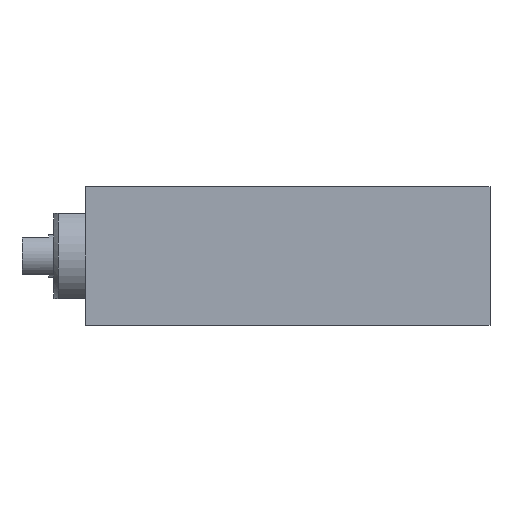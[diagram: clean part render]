
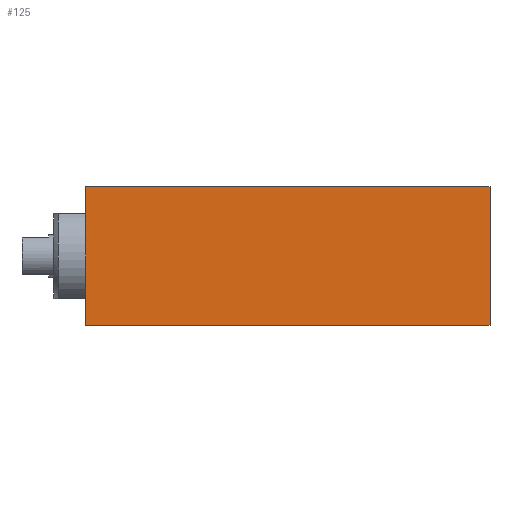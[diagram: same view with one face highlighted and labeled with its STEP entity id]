
A CAD part, front view. The second image highlights one B-rep face of the part: STEP entity #125.
In plain terms, the highlighted planar face has unit normal (0, -1, 0).
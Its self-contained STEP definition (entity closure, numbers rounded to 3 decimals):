
#8 = VERTEX_POINT ( 'NONE', #1358 ) ;
#125 = ADVANCED_FACE ( 'NONE', ( #319 ), #2339, .T. ) ;
#173 = VECTOR ( 'NONE', #1561, 1000. ) ;
#205 = DIRECTION ( 'NONE',  ( -1., 0., 0. ) ) ;
#319 = FACE_OUTER_BOUND ( 'NONE', #855, .T. ) ;
#346 = EDGE_CURVE ( 'NONE', #1735, #2273, #1548, .T. ) ;
#371 = LINE ( 'NONE', #1293, #1343 ) ;
#522 = CARTESIAN_POINT ( 'NONE',  ( 38., -10., 6.5 ) ) ;
#672 = CARTESIAN_POINT ( 'NONE',  ( 38., -10., 6.5 ) ) ;
#703 = VERTEX_POINT ( 'NONE', #1923 ) ;
#855 = EDGE_LOOP ( 'NONE', ( #2030, #2536, #2230, #2279 ) ) ;
#1023 = DIRECTION ( 'NONE',  ( 0., -1., 0. ) ) ;
#1049 = LINE ( 'NONE', #2789, #2011 ) ;
#1131 = LINE ( 'NONE', #672, #1536 ) ;
#1258 = CARTESIAN_POINT ( 'NONE',  ( 38., -10., -6.5 ) ) ;
#1293 = CARTESIAN_POINT ( 'NONE',  ( 38., -10., -6.5 ) ) ;
#1337 = CARTESIAN_POINT ( 'NONE',  ( 38., -10., -6.5 ) ) ;
#1343 = VECTOR ( 'NONE', #205, 1000. ) ;
#1352 = EDGE_CURVE ( 'NONE', #2273, #703, #1131, .T. ) ;
#1358 = CARTESIAN_POINT ( 'NONE',  ( 0., -10., -6.5 ) ) ;
#1536 = VECTOR ( 'NONE', #2899, 1000. ) ;
#1548 = LINE ( 'NONE', #2227, #173 ) ;
#1561 = DIRECTION ( 'NONE',  ( 0., 0., 1. ) ) ;
#1644 = EDGE_CURVE ( 'NONE', #8, #703, #1049, .T. ) ;
#1708 = DIRECTION ( 'NONE',  ( 1., 0., 0. ) ) ;
#1735 = VERTEX_POINT ( 'NONE', #1337 ) ;
#1739 = DIRECTION ( 'NONE',  ( 0., 0., 1. ) ) ;
#1923 = CARTESIAN_POINT ( 'NONE',  ( 0., -10., 6.5 ) ) ;
#2011 = VECTOR ( 'NONE', #1739, 1000. ) ;
#2030 = ORIENTED_EDGE ( 'NONE', *, *, #1644, .F. ) ;
#2227 = CARTESIAN_POINT ( 'NONE',  ( 38., -10., -6.5 ) ) ;
#2230 = ORIENTED_EDGE ( 'NONE', *, *, #346, .T. ) ;
#2273 = VERTEX_POINT ( 'NONE', #522 ) ;
#2279 = ORIENTED_EDGE ( 'NONE', *, *, #1352, .T. ) ;
#2339 = PLANE ( 'NONE',  #2698 ) ;
#2496 = EDGE_CURVE ( 'NONE', #1735, #8, #371, .T. ) ;
#2536 = ORIENTED_EDGE ( 'NONE', *, *, #2496, .F. ) ;
#2698 = AXIS2_PLACEMENT_3D ( 'NONE', #1258, #1023, #1708 ) ;
#2789 = CARTESIAN_POINT ( 'NONE',  ( 0., -10., -6.5 ) ) ;
#2899 = DIRECTION ( 'NONE',  ( -1., 0., 0. ) ) ;
